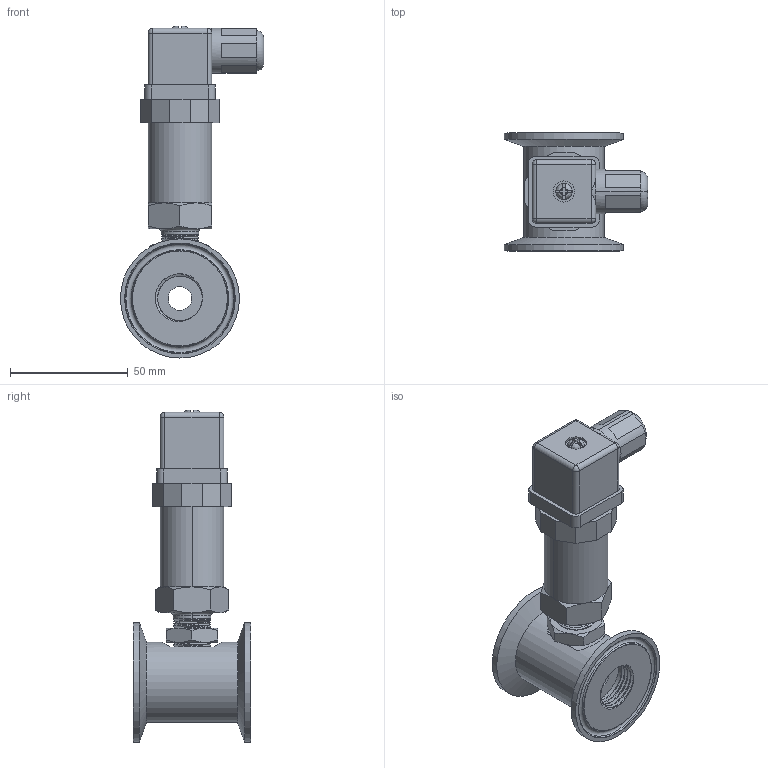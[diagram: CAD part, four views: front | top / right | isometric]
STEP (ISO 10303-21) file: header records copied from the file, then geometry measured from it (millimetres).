
FILE_DESCRIPTION( (''), '2;1');
FILE_NAME( 'QTKB_DN10_tri-clamp_DIN-plug.step', '2024-10-12T16:03:23+08:00', (''), (''), '', '', '');
FILE_SCHEMA (('AUTOMOTIVE_DESIGN { 1 0 10303 214 3 1 1 1 }'));
Length unit declared in the file: millimetre
Products named in the file (1): QTKB DN10_tri-clamp_DIN-plug
Bounding box: 60.73 x 50 x 140.75 mm (x, y, z)
Volume: 111340 mm3; surface area: 34516.1 mm2
Topology: 5 solids, 6 shells, 387 faces, 1021 edges, 666 vertices
Faces by surface type: plane 246, cylinder 60, cone 45, bspline 22, torus 10, sphere 4
Full cylindrical faces by diameter (mm): 10 x1, 17 x1, 21 x2, 34 x1, 50.5 x2
Entity records: 17487 total; most frequent: CARTESIAN_POINT 8179, ORIENTED_EDGE 1982, DIRECTION 1761, EDGE_CURVE 991, VERTEX_POINT 659, LINE 625, VECTOR 625, AXIS2_PLACEMENT_3D 568
